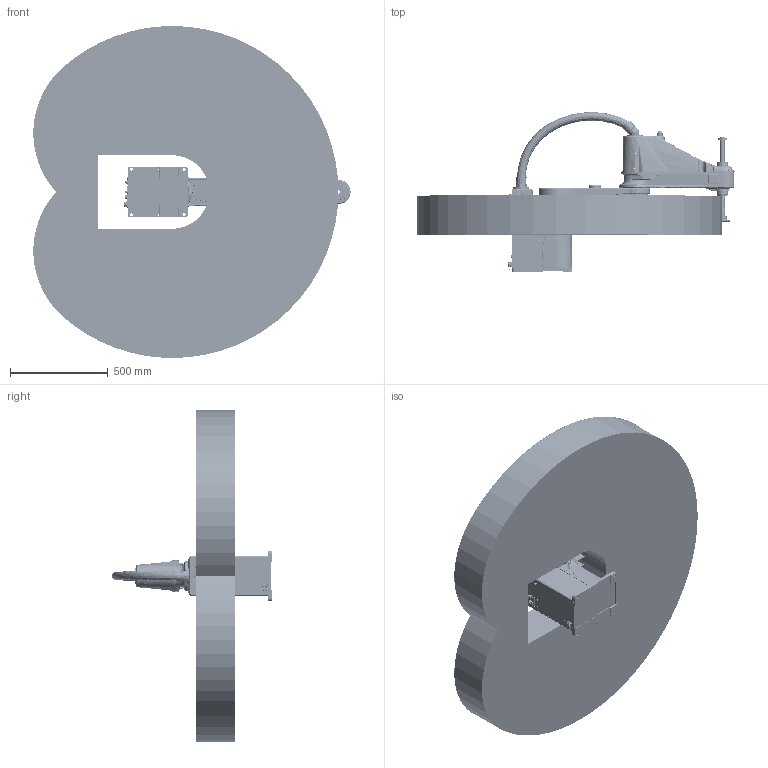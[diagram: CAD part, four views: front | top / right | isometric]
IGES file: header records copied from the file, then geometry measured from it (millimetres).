
Start section: SolidWorks IGES file using analytic representation for surfaces
Global section: file name: X:\03研发部\50-Robot\030AH20\01-Design\_Mechanical\07-AH20对外发布模型\AH20-0850-0204-2000\IGS\AH20-0850-0204-2000-V1.0.0.IGS; native system: SolidWorks 2017; preprocessor: SolidWorks 2017; author: 0741; date: 220602.152605; units: millimetre
Bounding box: 1624.26 x 817.94 x 1700 mm (x, y, z)
Surface area: 7261151.5 mm2 (no closed solid volume)
Topology: 0 solids, 0 shells, 6670 faces, 82474 edges, 82322 vertices
Faces by surface type: bspline 4122, revolution 2548
